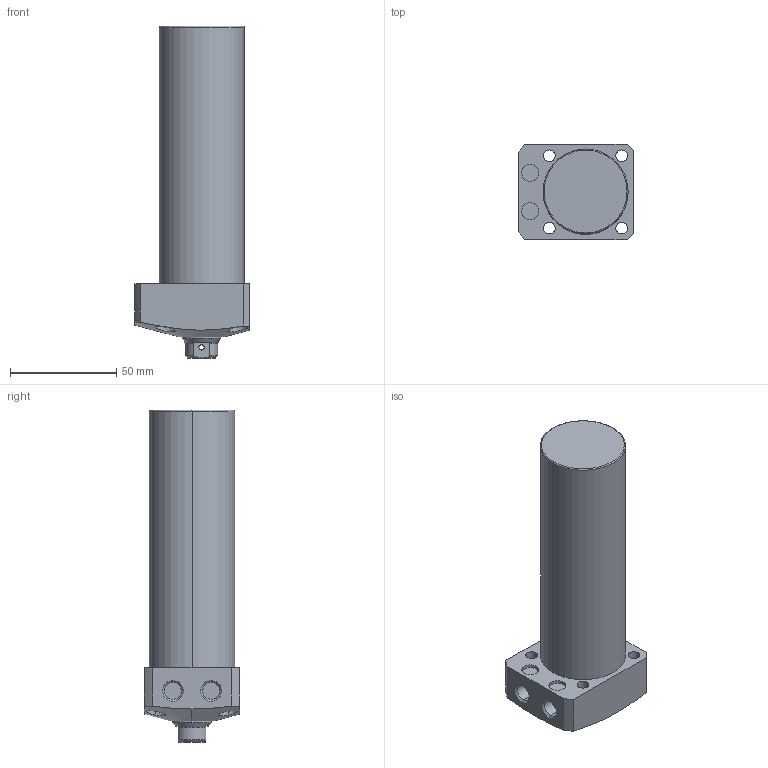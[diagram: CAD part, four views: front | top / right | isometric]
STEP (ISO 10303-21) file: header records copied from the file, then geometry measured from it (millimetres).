
FILE_DESCRIPTION (( 'STEP AP203' ), '1' );
FILE_NAME ('CLL-040CB-095.STEP', '2019-12-21T03:55:56', ( '' ), ( '' ), 'SwSTEP 2.0', 'SolidWorks 2015', '' );
FILE_SCHEMA (( 'CONFIG_CONTROL_DESIGN' ));
Length unit declared in the file: millimetre
Products named in the file (1): CLL-040CB-095
Bounding box: 54 x 45 x 156 mm (x, y, z)
Volume: 202460.4 mm3; surface area: 27338.3 mm2
Topology: 1 solids, 1 shells, 78 faces, 182 edges, 115 vertices
Faces by surface type: cylinder 39, plane 22, cone 15, torus 2
Entity records: 2721 total; most frequent: CARTESIAN_POINT 822, DIRECTION 394, ORIENTED_EDGE 360, EDGE_CURVE 180, AXIS2_PLACEMENT_3D 163, VERTEX_POINT 115, EDGE_LOOP 101, CIRCLE 84
